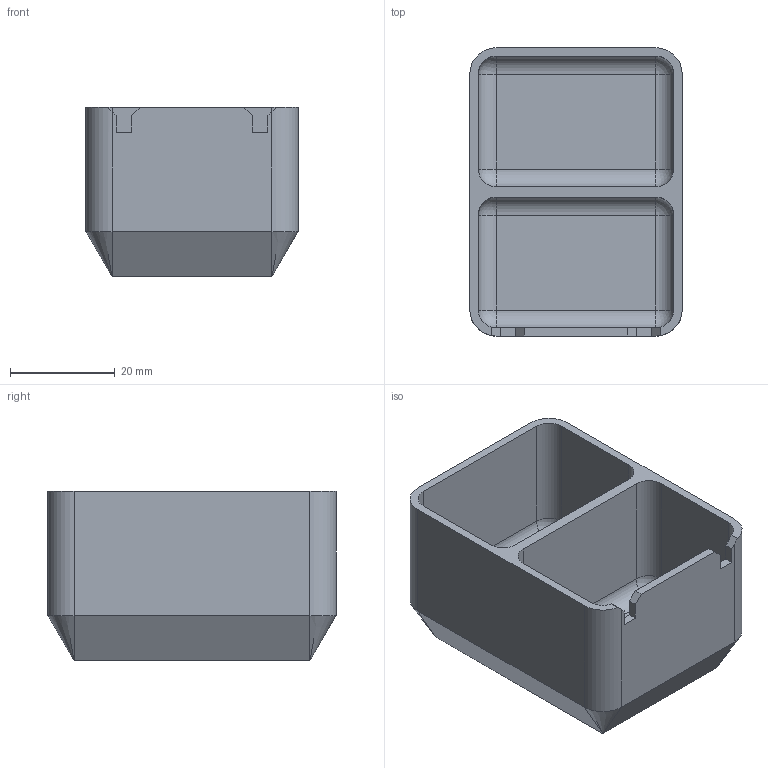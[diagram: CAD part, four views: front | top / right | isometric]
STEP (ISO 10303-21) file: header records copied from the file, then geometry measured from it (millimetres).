
FILE_DESCRIPTION(/* description */ (''),/* implementation_level */ '2;1');
FILE_NAME(/* name */ 'N:\3D_DATA1\治具\パーツケース内ボックス\2分割底上げ5.stp',/* time_stamp */ '2022-02-04T21:03:58+09:00',/* author */ ('KONAN'),/* organization */ (''),/* preprocessor_version */ 'ST-DEVELOPER v17.2',/* originating_system */ 'Autodesk Inventor 2019',/* authorisation */ '');
FILE_SCHEMA (('AUTOMOTIVE_DESIGN { 1 0 10303 214 3 1 1 }'));
Length unit declared in the file: millimetre
Products named in the file (1): 2分割底上げ5
Bounding box: 40.5 x 55 x 32.4 mm (x, y, z)
Volume: 21218.4 mm3; surface area: 15247.1 mm2
Topology: 1 solids, 1 shells, 63 faces, 148 edges, 84 vertices
Faces by surface type: plane 31, cylinder 20, sphere 8, cone 4
Entity records: 1775 total; most frequent: DIRECTION 316, CARTESIAN_POINT 292, ORIENTED_EDGE 288, EDGE_CURVE 144, AXIS2_PLACEMENT_3D 108, LINE 100, VECTOR 100, VERTEX_POINT 84
